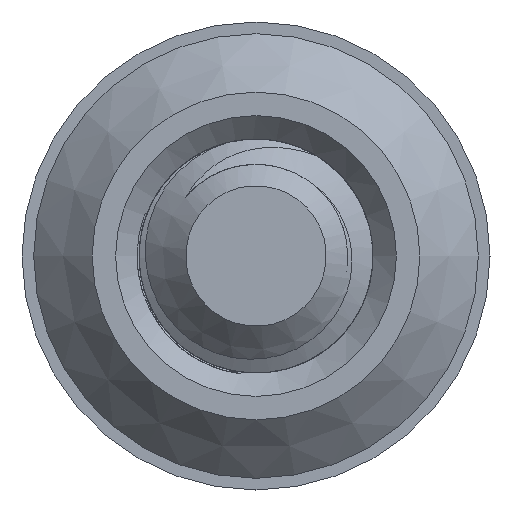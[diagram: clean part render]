
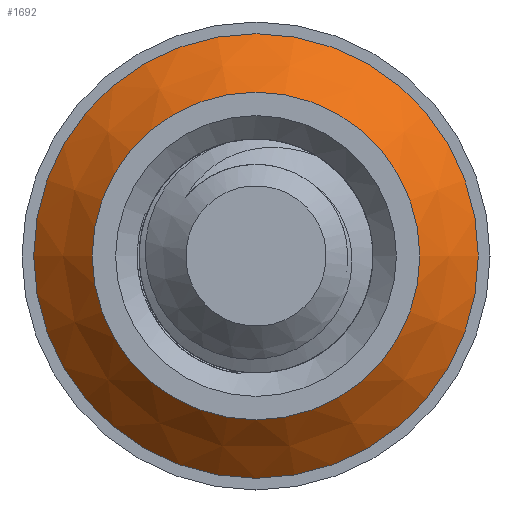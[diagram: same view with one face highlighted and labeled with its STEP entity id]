
A CAD part, front view. The second image highlights one B-rep face of the part: STEP entity #1692.
In plain terms, the highlighted conical face has half-angle 45 degrees and reference radius 1.4 mm.
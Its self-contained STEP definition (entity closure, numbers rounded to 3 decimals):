
#348 = ORIENTED_EDGE ( 'NONE', *, *, #7465, .F. ) ;
#512 = VERTEX_POINT ( 'NONE', #8116 ) ;
#569 = FACE_OUTER_BOUND ( 'NONE', #4695, .T. ) ;
#653 = DIRECTION ( 'NONE',  ( -1., 0., 0. ) ) ;
#1136 = AXIS2_PLACEMENT_3D ( 'NONE', #2836, #2770, #7879 ) ;
#1692 = ADVANCED_FACE ( 'NONE', ( #569, #1849 ), #3531, .T. ) ;
#1849 = FACE_BOUND ( 'NONE', #4592, .T. ) ;
#2770 = DIRECTION ( 'NONE',  ( 0., -1., 0. ) ) ;
#2836 = CARTESIAN_POINT ( 'NONE',  ( -2.569, -13.448, 25.4 ) ) ;
#3493 = CIRCLE ( 'NONE', #7721, 1.9 ) ;
#3531 = CONICAL_SURFACE ( 'NONE', #6722, 1.4, 0.785 ) ;
#4031 = DIRECTION ( 'NONE',  ( -1., 0., 0. ) ) ;
#4428 = DIRECTION ( 'NONE',  ( 0., 1., 0. ) ) ;
#4592 = EDGE_LOOP ( 'NONE', ( #8123 ) ) ;
#4695 = EDGE_LOOP ( 'NONE', ( #348 ) ) ;
#5706 = CARTESIAN_POINT ( 'NONE',  ( -2.569, -13.448, 25.4 ) ) ;
#6610 = DIRECTION ( 'NONE',  ( 0., 1., 0. ) ) ;
#6666 = CARTESIAN_POINT ( 'NONE',  ( -2.569, -12.948, 25.4 ) ) ;
#6722 = AXIS2_PLACEMENT_3D ( 'NONE', #5706, #4428, #653 ) ;
#6800 = VERTEX_POINT ( 'NONE', #7455 ) ;
#7318 = CIRCLE ( 'NONE', #1136, 1.4 ) ;
#7455 = CARTESIAN_POINT ( 'NONE',  ( -3.969, -13.448, 25.4 ) ) ;
#7465 = EDGE_CURVE ( 'NONE', #512, #512, #3493, .T. ) ;
#7507 = EDGE_CURVE ( 'NONE', #6800, #6800, #7318, .T. ) ;
#7721 = AXIS2_PLACEMENT_3D ( 'NONE', #6666, #6610, #4031 ) ;
#7879 = DIRECTION ( 'NONE',  ( -1., 0., 0. ) ) ;
#8116 = CARTESIAN_POINT ( 'NONE',  ( -4.469, -12.948, 25.4 ) ) ;
#8123 = ORIENTED_EDGE ( 'NONE', *, *, #7507, .F. ) ;
